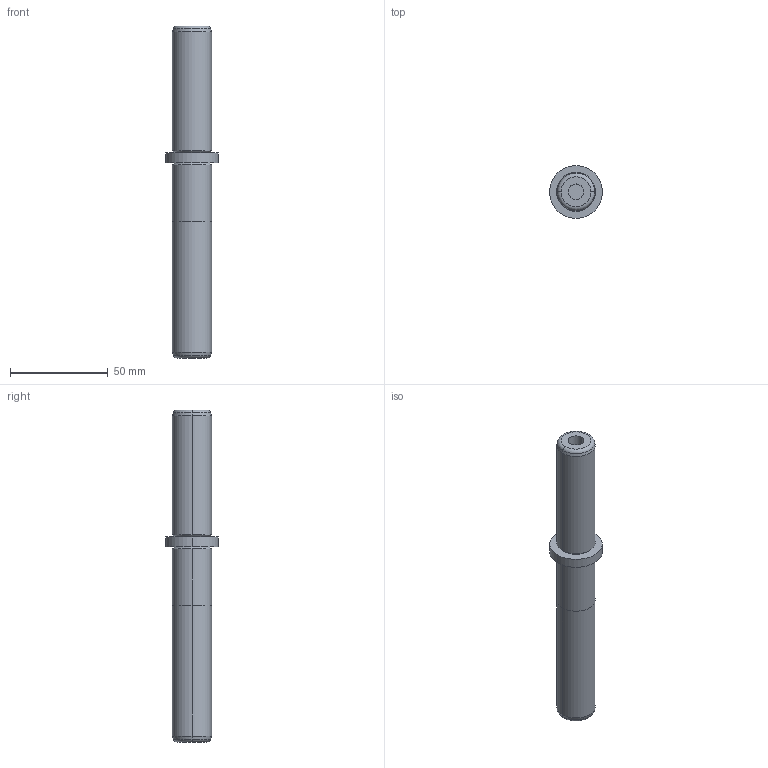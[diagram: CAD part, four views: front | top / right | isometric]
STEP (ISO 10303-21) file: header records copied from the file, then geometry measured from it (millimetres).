
FILE_DESCRIPTION(/* description */ (''),/* implementation_level */ '2;1');
FILE_NAME(/* name */ '3d_sgpwh20-100-70-b30_05313_r00.stp',/* time_stamp */ '2011-01-10T14:11:02+09:00',/* author */ ('MISUMI'),/* organization */ (''),/* preprocessor_version */ 'ST-DEVELOPER v11',/* originating_system */ 'UGS - NX 5.0',/* authorisation */ '');
FILE_SCHEMA (('CONFIG_CONTROL_DESIGN'));
Length unit declared in the file: millimetre
Products named in the file (1): 3d_sgpwh20-100-70-b30_05313_r00
Bounding box: 27 x 27 x 170 mm (x, y, z)
Volume: 51926.8 mm3; surface area: 13201.9 mm2
Topology: 1 solids, 1 shells, 30 faces, 58 edges, 34 vertices
Faces by surface type: cylinder 12, cone 8, plane 6, torus 4
Entity records: 854 total; most frequent: DIRECTION 158, CARTESIAN_POINT 123, ORIENTED_EDGE 116, AXIS2_PLACEMENT_3D 69, EDGE_CURVE 58, CIRCLE 38, EDGE_LOOP 34, VERTEX_POINT 34
